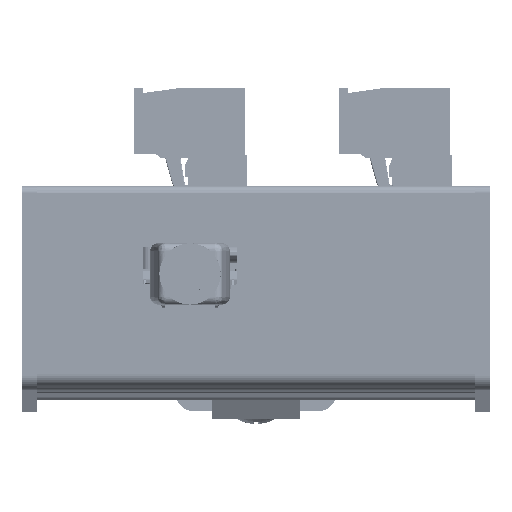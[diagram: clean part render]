
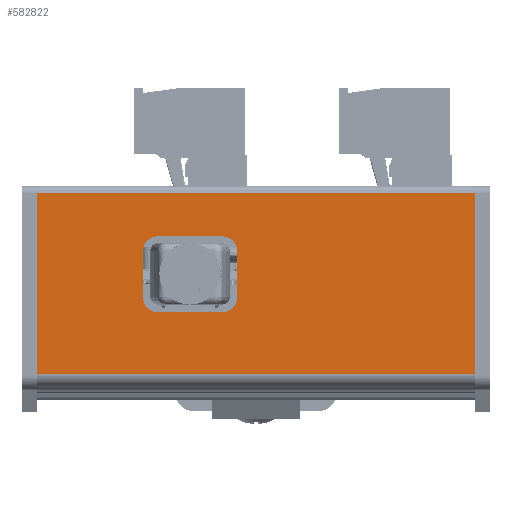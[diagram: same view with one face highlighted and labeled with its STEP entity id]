
A CAD part, front view. The second image highlights one B-rep face of the part: STEP entity #582822.
In plain terms, the highlighted planar face has unit normal (0, -1, 0).
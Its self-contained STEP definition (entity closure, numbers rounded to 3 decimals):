
#5367 = FACE_BOUND ( 'NONE', #51771, .T. ) ;
#16894 = CARTESIAN_POINT ( 'NONE',  ( 13.675, -52.5, -126.25 ) ) ;
#26758 = CIRCLE ( 'NONE', #141742, 2. ) ;
#26857 = ORIENTED_EDGE ( 'NONE', *, *, #369317, .T. ) ;
#37348 = DIRECTION ( 'NONE',  ( 0., 0., -1. ) ) ;
#51771 = EDGE_LOOP ( 'NONE', ( #926242, #919739, #611131, #589003, #726578, #822677, #857602, #971464 ) ) ;
#52565 = VERTEX_POINT ( 'NONE', #833427 ) ;
#68471 = LINE ( 'NONE', #725143, #309422 ) ;
#73467 = EDGE_CURVE ( 'NONE', #572953, #991800, #309493, .T. ) ;
#94656 = VECTOR ( 'NONE', #811013, 1000. ) ;
#101751 = DIRECTION ( 'NONE',  ( 0., 0., 1. ) ) ;
#113303 = EDGE_CURVE ( 'NONE', #512604, #683306, #733076, .T. ) ;
#135951 = AXIS2_PLACEMENT_3D ( 'NONE', #315670, #769052, #453546 ) ;
#141742 = AXIS2_PLACEMENT_3D ( 'NONE', #322512, #806055, #554156 ) ;
#147367 = CARTESIAN_POINT ( 'NONE',  ( 5.767, -52.5, -93.666 ) ) ;
#167261 = VERTEX_POINT ( 'NONE', #958198 ) ;
#171462 = CARTESIAN_POINT ( 'NONE',  ( -11.031, -52.5, -126.25 ) ) ;
#178040 = LINE ( 'NONE', #910054, #970836 ) ;
#185204 = LINE ( 'NONE', #171462, #990558 ) ;
#191057 = LINE ( 'NONE', #193278, #94656 ) ;
#193278 = CARTESIAN_POINT ( 'NONE',  ( 13.675, -52.5, -126.25 ) ) ;
#197748 = LINE ( 'NONE', #564915, #498335 ) ;
#204698 = CARTESIAN_POINT ( 'NONE',  ( 5.767, -52.5, -91.666 ) ) ;
#223939 = CARTESIAN_POINT ( 'NONE',  ( -0.613, -52.5, -82.786 ) ) ;
#225644 = VECTOR ( 'NONE', #909666, 1000. ) ;
#262752 = CARTESIAN_POINT ( 'NONE',  ( -11.031, -52.5, -66.25 ) ) ;
#264372 = ORIENTED_EDGE ( 'NONE', *, *, #840574, .T. ) ;
#270227 = VERTEX_POINT ( 'NONE', #482616 ) ;
#308929 = EDGE_CURVE ( 'NONE', #711132, #416629, #26758, .T. ) ;
#309422 = VECTOR ( 'NONE', #335689, 1000. ) ;
#309493 = LINE ( 'NONE', #446315, #225644 ) ;
#315670 = CARTESIAN_POINT ( 'NONE',  ( 5.767, -52.5, -82.786 ) ) ;
#322512 = CARTESIAN_POINT ( 'NONE',  ( -0.613, -52.5, -91.666 ) ) ;
#325852 = DIRECTION ( 'NONE',  ( 0., 0., -1. ) ) ;
#335689 = DIRECTION ( 'NONE',  ( 1., 0., 0. ) ) ;
#369317 = EDGE_CURVE ( 'NONE', #859365, #52565, #191057, .T. ) ;
#379356 = DIRECTION ( 'NONE',  ( -1., 0., 0. ) ) ;
#382170 = EDGE_CURVE ( 'NONE', #450751, #859365, #185204, .T. ) ;
#385805 = CARTESIAN_POINT ( 'NONE',  ( -11.031, -52.5, -126.25 ) ) ;
#389564 = EDGE_CURVE ( 'NONE', #683306, #167261, #679495, .T. ) ;
#389802 = DIRECTION ( 'NONE',  ( 0., -1., 0. ) ) ;
#389882 = FACE_OUTER_BOUND ( 'NONE', #614773, .T. ) ;
#395095 = VERTEX_POINT ( 'NONE', #854016 ) ;
#402925 = EDGE_CURVE ( 'NONE', #395095, #711132, #197748, .T. ) ;
#416629 = VERTEX_POINT ( 'NONE', #694930 ) ;
#436346 = DIRECTION ( 'NONE',  ( 0., -1., 0. ) ) ;
#446286 = DIRECTION ( 'NONE',  ( 0., 0., -1. ) ) ;
#446315 = CARTESIAN_POINT ( 'NONE',  ( 5.767, -52.5, -80.786 ) ) ;
#450751 = VERTEX_POINT ( 'NONE', #262752 ) ;
#453546 = DIRECTION ( 'NONE',  ( 0., 0., -1. ) ) ;
#476968 = PLANE ( 'NONE',  #881606 ) ;
#480440 = CIRCLE ( 'NONE', #135951, 2. ) ;
#482616 = CARTESIAN_POINT ( 'NONE',  ( 13.675, -52.5, -66.25 ) ) ;
#486456 = CARTESIAN_POINT ( 'NONE',  ( 7.767, -52.5, -91.666 ) ) ;
#498335 = VECTOR ( 'NONE', #37348, 1000. ) ;
#512604 = VERTEX_POINT ( 'NONE', #147367 ) ;
#547730 = ORIENTED_EDGE ( 'NONE', *, *, #382170, .T. ) ;
#549038 = ORIENTED_EDGE ( 'NONE', *, *, #661394, .T. ) ;
#554156 = DIRECTION ( 'NONE',  ( 0., 0., -1. ) ) ;
#563654 = AXIS2_PLACEMENT_3D ( 'NONE', #223939, #915707, #831934 ) ;
#564915 = CARTESIAN_POINT ( 'NONE',  ( -2.613, -52.5, -82.786 ) ) ;
#572953 = VERTEX_POINT ( 'NONE', #741598 ) ;
#582822 = ADVANCED_FACE ( 'NONE', ( #5367, #389882 ), #476968, .T. ) ;
#589003 = ORIENTED_EDGE ( 'NONE', *, *, #402925, .F. ) ;
#611131 = ORIENTED_EDGE ( 'NONE', *, *, #308929, .F. ) ;
#614773 = EDGE_LOOP ( 'NONE', ( #26857, #549038, #264372, #547730 ) ) ;
#619734 = VECTOR ( 'NONE', #993359, 1000. ) ;
#644867 = VECTOR ( 'NONE', #101751, 1000. ) ;
#661394 = EDGE_CURVE ( 'NONE', #52565, #270227, #946414, .T. ) ;
#670062 = EDGE_CURVE ( 'NONE', #167261, #572953, #480440, .T. ) ;
#679495 = LINE ( 'NONE', #755221, #619734 ) ;
#683306 = VERTEX_POINT ( 'NONE', #486456 ) ;
#694930 = CARTESIAN_POINT ( 'NONE',  ( -0.613, -52.5, -93.666 ) ) ;
#705323 = CARTESIAN_POINT ( 'NONE',  ( -2.613, -52.5, -91.666 ) ) ;
#711132 = VERTEX_POINT ( 'NONE', #705323 ) ;
#725143 = CARTESIAN_POINT ( 'NONE',  ( -0.613, -52.5, -93.666 ) ) ;
#726578 = ORIENTED_EDGE ( 'NONE', *, *, #940858, .F. ) ;
#733076 = CIRCLE ( 'NONE', #861735, 2. ) ;
#740914 = EDGE_CURVE ( 'NONE', #416629, #512604, #68471, .T. ) ;
#741598 = CARTESIAN_POINT ( 'NONE',  ( 5.767, -52.5, -80.786 ) ) ;
#755221 = CARTESIAN_POINT ( 'NONE',  ( 7.767, -52.5, -91.666 ) ) ;
#769052 = DIRECTION ( 'NONE',  ( 0., -1., 0. ) ) ;
#782616 = DIRECTION ( 'NONE',  ( 0., 0., -1. ) ) ;
#790177 = CARTESIAN_POINT ( 'NONE',  ( 13.675, -52.5, -126.25 ) ) ;
#794044 = CIRCLE ( 'NONE', #563654, 2. ) ;
#806055 = DIRECTION ( 'NONE',  ( 0., -1., 0. ) ) ;
#811013 = DIRECTION ( 'NONE',  ( 1., 0., 0. ) ) ;
#822677 = ORIENTED_EDGE ( 'NONE', *, *, #73467, .F. ) ;
#831934 = DIRECTION ( 'NONE',  ( 0., 0., -1. ) ) ;
#833427 = CARTESIAN_POINT ( 'NONE',  ( 13.675, -52.5, -126.25 ) ) ;
#840574 = EDGE_CURVE ( 'NONE', #270227, #450751, #178040, .T. ) ;
#854016 = CARTESIAN_POINT ( 'NONE',  ( -2.613, -52.5, -82.786 ) ) ;
#857602 = ORIENTED_EDGE ( 'NONE', *, *, #670062, .F. ) ;
#859365 = VERTEX_POINT ( 'NONE', #385805 ) ;
#861735 = AXIS2_PLACEMENT_3D ( 'NONE', #204698, #436346, #446286 ) ;
#881606 = AXIS2_PLACEMENT_3D ( 'NONE', #16894, #389802, #782616 ) ;
#909666 = DIRECTION ( 'NONE',  ( -1., 0., 0. ) ) ;
#910054 = CARTESIAN_POINT ( 'NONE',  ( 13.675, -52.5, -66.25 ) ) ;
#915707 = DIRECTION ( 'NONE',  ( 0., -1., 0. ) ) ;
#919739 = ORIENTED_EDGE ( 'NONE', *, *, #740914, .F. ) ;
#926242 = ORIENTED_EDGE ( 'NONE', *, *, #113303, .F. ) ;
#940858 = EDGE_CURVE ( 'NONE', #991800, #395095, #794044, .T. ) ;
#946414 = LINE ( 'NONE', #790177, #644867 ) ;
#958198 = CARTESIAN_POINT ( 'NONE',  ( 7.767, -52.5, -82.786 ) ) ;
#970836 = VECTOR ( 'NONE', #379356, 1000. ) ;
#971464 = ORIENTED_EDGE ( 'NONE', *, *, #389564, .F. ) ;
#989389 = CARTESIAN_POINT ( 'NONE',  ( -0.613, -52.5, -80.786 ) ) ;
#990558 = VECTOR ( 'NONE', #325852, 1000. ) ;
#991800 = VERTEX_POINT ( 'NONE', #989389 ) ;
#993359 = DIRECTION ( 'NONE',  ( 0., 0., 1. ) ) ;
